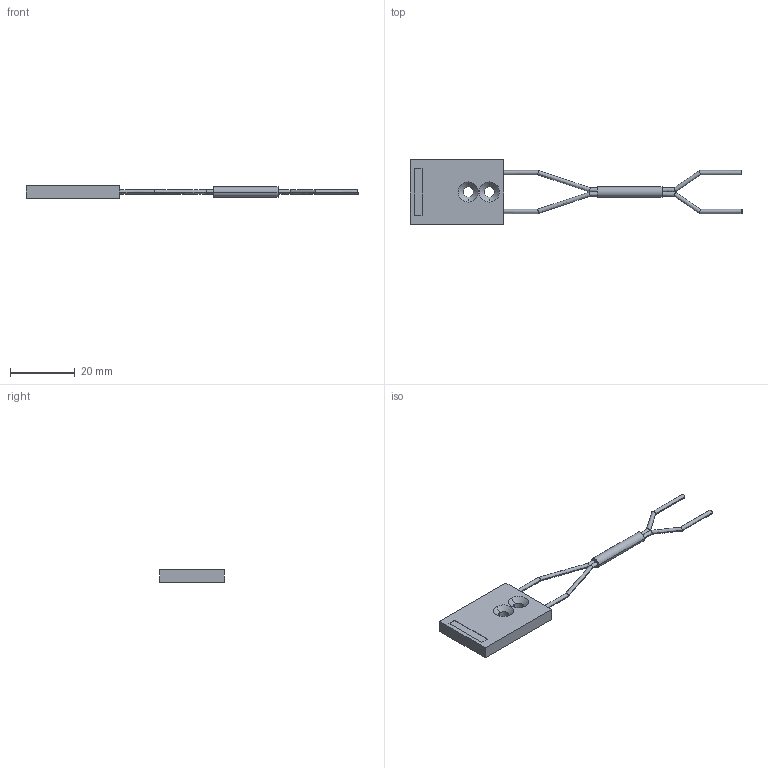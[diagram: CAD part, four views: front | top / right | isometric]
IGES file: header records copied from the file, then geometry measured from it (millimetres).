
Start section: SolidWorks IGES FILE using analytic representation for surfaces
Global section: file name: C:\Documents and Settings\yk0651\デスクトップ\3D_catalog_050904\0_IGES\FD-L45.IGS; native system: SolidWorks 2004 by SolidWorks Corporation; preprocessor: Version 5.3; author: yk0651; date: 050904.190714; units: millimetre
Bounding box: 102.55 x 20 x 3.8 mm (x, y, z)
Volume: 2419.4 mm3; surface area: 2238 mm2
Topology: 1 solids, 1 shells, 49 faces, 106 edges, 64 vertices
Faces by surface type: revolution 34, plane 15
